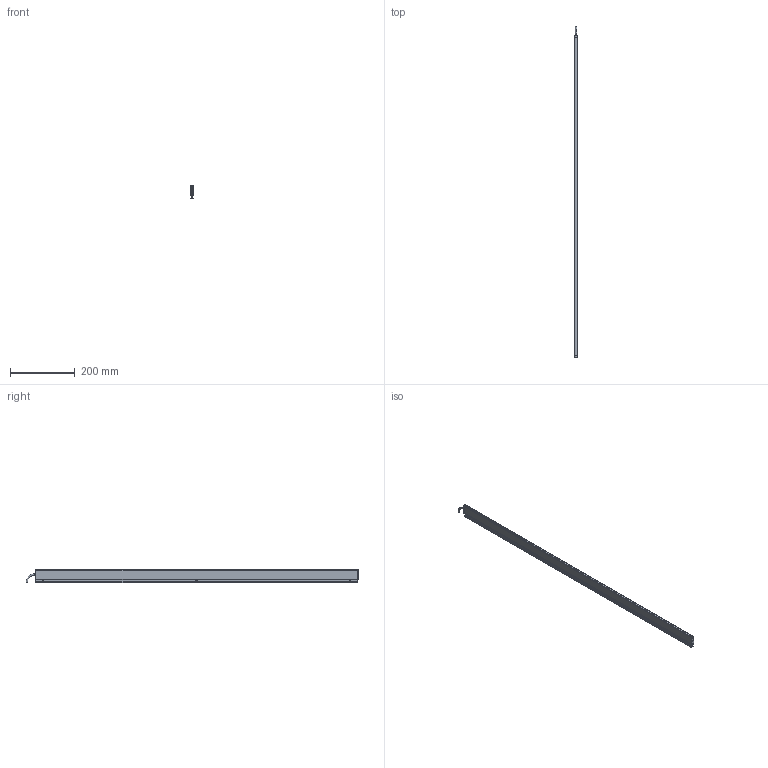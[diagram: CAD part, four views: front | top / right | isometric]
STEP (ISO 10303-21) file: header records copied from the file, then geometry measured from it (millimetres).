
FILE_DESCRIPTION (( 'STEP AP214' ), '1' );
FILE_NAME ('ILG-L-K1-1000mm.STEP', '2017-07-11T07:06:03', ( '' ), ( '' ), 'SwSTEP 2.0', 'SolidWorks 2016', '' );
FILE_SCHEMA (( 'AUTOMOTIVE_DESIGN' ));
Length unit declared in the file: millimetre
Products named in the file (1): ILG-L-K1-1000mm
Bounding box: 9 x 1028.25 x 40.71 mm (x, y, z)
Volume: 142571.1 mm3; surface area: 198056.4 mm2
Topology: 9 solids, 9 shells, 430 faces, 1108 edges, 698 vertices
Faces by surface type: plane 205, cylinder 151, cone 64, torus 10
Entity records: 17910 total; most frequent: CARTESIAN_POINT 2385, DIRECTION 2328, ORIENTED_EDGE 2200, EDGE_CURVE 1100, AXIS2_PLACEMENT_3D 849, VERTEX_POINT 698, LINE 630, VECTOR 630
